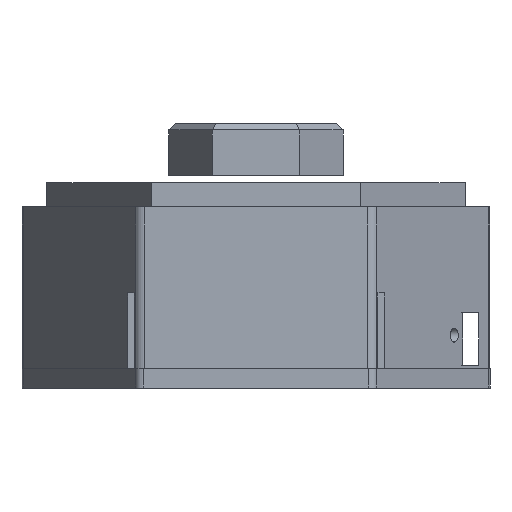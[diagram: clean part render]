
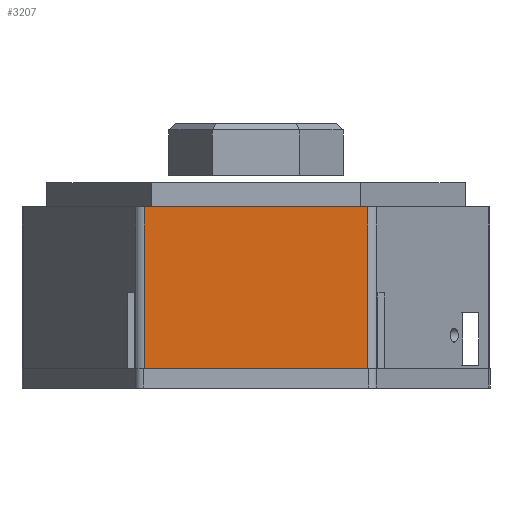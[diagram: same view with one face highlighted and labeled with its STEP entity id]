
A CAD part, left-side view. The second image highlights one B-rep face of the part: STEP entity #3207.
In plain terms, the highlighted planar face has unit normal (-1, 0, 0).
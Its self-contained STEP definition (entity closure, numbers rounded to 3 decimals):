
#128 = PLANE('',#129);
#129 = AXIS2_PLACEMENT_3D('',#130,#131,#132);
#130 = CARTESIAN_POINT('',(0.,0.,2.6));
#131 = DIRECTION('',(0.,0.,1.));
#132 = DIRECTION('',(1.,0.,-0.));
#184 = PLANE('',#185);
#185 = AXIS2_PLACEMENT_3D('',#186,#187,#188);
#186 = CARTESIAN_POINT('',(0.,0.,24.));
#187 = DIRECTION('',(0.,0.,1.));
#188 = DIRECTION('',(1.,0.,-0.));
#532 = VERTEX_POINT('',#533);
#533 = CARTESIAN_POINT('',(-27.,14.78,2.6));
#548 = CYLINDRICAL_SURFACE('',#549,1.4);
#549 = AXIS2_PLACEMENT_3D('',#550,#551,#552);
#550 = CARTESIAN_POINT('',(-25.6,14.78,2.6));
#551 = DIRECTION('',(0.,0.,1.));
#552 = DIRECTION('',(-0.5,0.866,0.));
#560 = EDGE_CURVE('',#532,#561,#563,.T.);
#561 = VERTEX_POINT('',#562);
#562 = CARTESIAN_POINT('',(-27.,-14.78,2.6));
#563 = SURFACE_CURVE('',#564,(#568,#575),.PCURVE_S1.);
#564 = LINE('',#565,#566);
#565 = CARTESIAN_POINT('',(-27.,15.588,2.6));
#566 = VECTOR('',#567,1.);
#567 = DIRECTION('',(0.,-1.,0.));
#568 = PCURVE('',#128,#569);
#569 = DEFINITIONAL_REPRESENTATION('',(#570),#574);
#570 = LINE('',#571,#572);
#571 = CARTESIAN_POINT('',(-27.,15.588));
#572 = VECTOR('',#573,1.);
#573 = DIRECTION('',(0.,-1.));
#574 = ( GEOMETRIC_REPRESENTATION_CONTEXT(2) 
PARAMETRIC_REPRESENTATION_CONTEXT() REPRESENTATION_CONTEXT('2D SPACE',''
  ) );
#575 = PCURVE('',#576,#581);
#576 = PLANE('',#577);
#577 = AXIS2_PLACEMENT_3D('',#578,#579,#580);
#578 = CARTESIAN_POINT('',(-27.,15.588,2.6));
#579 = DIRECTION('',(1.,0.,-0.));
#580 = DIRECTION('',(0.,-1.,0.));
#581 = DEFINITIONAL_REPRESENTATION('',(#582),#586);
#582 = LINE('',#583,#584);
#583 = CARTESIAN_POINT('',(0.,0.));
#584 = VECTOR('',#585,1.);
#585 = DIRECTION('',(1.,0.));
#586 = ( GEOMETRIC_REPRESENTATION_CONTEXT(2) 
PARAMETRIC_REPRESENTATION_CONTEXT() REPRESENTATION_CONTEXT('2D SPACE',''
  ) );
#605 = CYLINDRICAL_SURFACE('',#606,1.4);
#606 = AXIS2_PLACEMENT_3D('',#607,#608,#609);
#607 = CARTESIAN_POINT('',(-25.6,-14.78,2.6));
#608 = DIRECTION('',(0.,0.,1.));
#609 = DIRECTION('',(-1.,0.,0.));
#1914 = VERTEX_POINT('',#1915);
#1915 = CARTESIAN_POINT('',(-27.,14.78,24.));
#1937 = EDGE_CURVE('',#1914,#1938,#1940,.T.);
#1938 = VERTEX_POINT('',#1939);
#1939 = CARTESIAN_POINT('',(-27.,-14.78,24.));
#1940 = SURFACE_CURVE('',#1941,(#1945,#1952),.PCURVE_S1.);
#1941 = LINE('',#1942,#1943);
#1942 = CARTESIAN_POINT('',(-27.,15.588,24.));
#1943 = VECTOR('',#1944,1.);
#1944 = DIRECTION('',(0.,-1.,0.));
#1945 = PCURVE('',#184,#1946);
#1946 = DEFINITIONAL_REPRESENTATION('',(#1947),#1951);
#1947 = LINE('',#1948,#1949);
#1948 = CARTESIAN_POINT('',(-27.,15.588));
#1949 = VECTOR('',#1950,1.);
#1950 = DIRECTION('',(0.,-1.));
#1951 = ( GEOMETRIC_REPRESENTATION_CONTEXT(2) 
PARAMETRIC_REPRESENTATION_CONTEXT() REPRESENTATION_CONTEXT('2D SPACE',''
  ) );
#1952 = PCURVE('',#576,#1953);
#1953 = DEFINITIONAL_REPRESENTATION('',(#1954),#1958);
#1954 = LINE('',#1955,#1956);
#1955 = CARTESIAN_POINT('',(0.,-21.4));
#1956 = VECTOR('',#1957,1.);
#1957 = DIRECTION('',(1.,0.));
#1958 = ( GEOMETRIC_REPRESENTATION_CONTEXT(2) 
PARAMETRIC_REPRESENTATION_CONTEXT() REPRESENTATION_CONTEXT('2D SPACE',''
  ) );
#3185 = EDGE_CURVE('',#532,#1914,#3186,.T.);
#3186 = SURFACE_CURVE('',#3187,(#3191,#3198),.PCURVE_S1.);
#3187 = LINE('',#3188,#3189);
#3188 = CARTESIAN_POINT('',(-27.,14.78,2.6));
#3189 = VECTOR('',#3190,1.);
#3190 = DIRECTION('',(0.,0.,1.));
#3191 = PCURVE('',#548,#3192);
#3192 = DEFINITIONAL_REPRESENTATION('',(#3193),#3197);
#3193 = LINE('',#3194,#3195);
#3194 = CARTESIAN_POINT('',(1.047,0.));
#3195 = VECTOR('',#3196,1.);
#3196 = DIRECTION('',(0.,1.));
#3197 = ( GEOMETRIC_REPRESENTATION_CONTEXT(2) 
PARAMETRIC_REPRESENTATION_CONTEXT() REPRESENTATION_CONTEXT('2D SPACE',''
  ) );
#3198 = PCURVE('',#576,#3199);
#3199 = DEFINITIONAL_REPRESENTATION('',(#3200),#3204);
#3200 = LINE('',#3201,#3202);
#3201 = CARTESIAN_POINT('',(0.808,0.));
#3202 = VECTOR('',#3203,1.);
#3203 = DIRECTION('',(0.,-1.));
#3204 = ( GEOMETRIC_REPRESENTATION_CONTEXT(2) 
PARAMETRIC_REPRESENTATION_CONTEXT() REPRESENTATION_CONTEXT('2D SPACE',''
  ) );
#3207 = ADVANCED_FACE('',(#3208),#576,.F.);
#3208 = FACE_BOUND('',#3209,.F.);
#3209 = EDGE_LOOP('',(#3210,#3211,#3212,#3213));
#3210 = ORIENTED_EDGE('',*,*,#560,.F.);
#3211 = ORIENTED_EDGE('',*,*,#3185,.T.);
#3212 = ORIENTED_EDGE('',*,*,#1937,.T.);
#3213 = ORIENTED_EDGE('',*,*,#3214,.F.);
#3214 = EDGE_CURVE('',#561,#1938,#3215,.T.);
#3215 = SURFACE_CURVE('',#3216,(#3220,#3227),.PCURVE_S1.);
#3216 = LINE('',#3217,#3218);
#3217 = CARTESIAN_POINT('',(-27.,-14.78,2.6));
#3218 = VECTOR('',#3219,1.);
#3219 = DIRECTION('',(0.,0.,1.));
#3220 = PCURVE('',#576,#3221);
#3221 = DEFINITIONAL_REPRESENTATION('',(#3222),#3226);
#3222 = LINE('',#3223,#3224);
#3223 = CARTESIAN_POINT('',(30.369,0.));
#3224 = VECTOR('',#3225,1.);
#3225 = DIRECTION('',(0.,-1.));
#3226 = ( GEOMETRIC_REPRESENTATION_CONTEXT(2) 
PARAMETRIC_REPRESENTATION_CONTEXT() REPRESENTATION_CONTEXT('2D SPACE',''
  ) );
#3227 = PCURVE('',#605,#3228);
#3228 = DEFINITIONAL_REPRESENTATION('',(#3229),#3233);
#3229 = LINE('',#3230,#3231);
#3230 = CARTESIAN_POINT('',(0.,0.));
#3231 = VECTOR('',#3232,1.);
#3232 = DIRECTION('',(0.,1.));
#3233 = ( GEOMETRIC_REPRESENTATION_CONTEXT(2) 
PARAMETRIC_REPRESENTATION_CONTEXT() REPRESENTATION_CONTEXT('2D SPACE',''
  ) );
